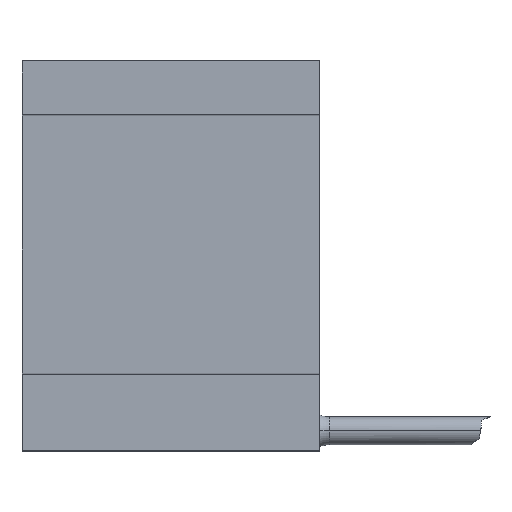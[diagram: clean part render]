
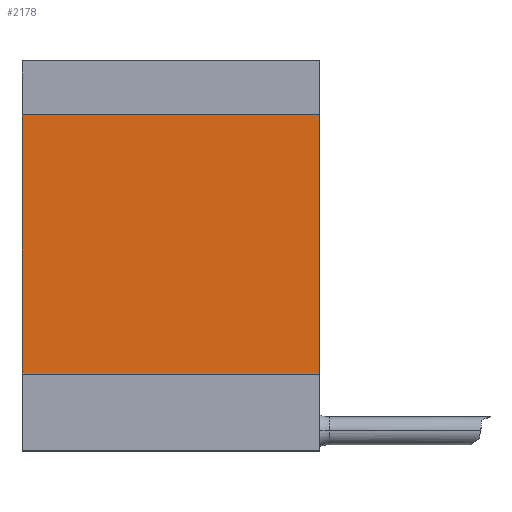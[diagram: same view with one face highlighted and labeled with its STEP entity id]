
A CAD part, top view. The second image highlights one B-rep face of the part: STEP entity #2178.
In plain terms, the highlighted planar face has unit normal (0, 0, 1).
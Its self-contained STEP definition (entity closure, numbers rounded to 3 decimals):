
#88 = DIRECTION ( 'NONE',  ( 1., 0., 0. ) ) ;
#269 = PLANE ( 'NONE',  #2606 ) ;
#324 = CARTESIAN_POINT ( 'NONE',  ( -23.097, 66.803, 43.079 ) ) ;
#472 = FACE_OUTER_BOUND ( 'NONE', #2415, .T. ) ;
#475 = CARTESIAN_POINT ( 'NONE',  ( -84.097, 119.703, 43.079 ) ) ;
#497 = DIRECTION ( 'NONE',  ( 0., -1., 0. ) ) ;
#504 = LINE ( 'NONE', #1429, #2587 ) ;
#581 = CARTESIAN_POINT ( 'NONE',  ( -84.097, 66.803, 43.079 ) ) ;
#772 = ORIENTED_EDGE ( 'NONE', *, *, #2201, .T. ) ;
#819 = EDGE_CURVE ( 'NONE', #2650, #1879, #504, .T. ) ;
#1026 = CARTESIAN_POINT ( 'NONE',  ( -84.097, 66.803, 43.079 ) ) ;
#1208 = DIRECTION ( 'NONE',  ( 0., 1., 0. ) ) ;
#1232 = VERTEX_POINT ( 'NONE', #3046 ) ;
#1274 = VECTOR ( 'NONE', #88, 1000. ) ;
#1351 = EDGE_CURVE ( 'NONE', #1232, #1954, #2350, .T. ) ;
#1412 = ORIENTED_EDGE ( 'NONE', *, *, #819, .T. ) ;
#1429 = CARTESIAN_POINT ( 'NONE',  ( -84.097, 66.803, 43.079 ) ) ;
#1517 = ORIENTED_EDGE ( 'NONE', *, *, #1351, .F. ) ;
#1827 = LINE ( 'NONE', #475, #2017 ) ;
#1879 = VERTEX_POINT ( 'NONE', #581 ) ;
#1954 = VERTEX_POINT ( 'NONE', #324 ) ;
#2017 = VECTOR ( 'NONE', #2331, 1000. ) ;
#2056 = VECTOR ( 'NONE', #497, 1000. ) ;
#2080 = DIRECTION ( 'NONE',  ( 0., -1., 0. ) ) ;
#2118 = CARTESIAN_POINT ( 'NONE',  ( -23.097, 66.803, 43.079 ) ) ;
#2159 = DIRECTION ( 'NONE',  ( 0., 0., -1. ) ) ;
#2178 = ADVANCED_FACE ( 'NONE', ( #472 ), #269, .F. ) ;
#2188 = LINE ( 'NONE', #1026, #1274 ) ;
#2201 = EDGE_CURVE ( 'NONE', #1879, #1954, #2188, .T. ) ;
#2331 = DIRECTION ( 'NONE',  ( 1., 0., 0. ) ) ;
#2350 = LINE ( 'NONE', #2118, #2056 ) ;
#2372 = CARTESIAN_POINT ( 'NONE',  ( -84.097, 66.803, 43.079 ) ) ;
#2415 = EDGE_LOOP ( 'NONE', ( #1517, #2636, #1412, #772 ) ) ;
#2481 = CARTESIAN_POINT ( 'NONE',  ( -84.097, 119.703, 43.079 ) ) ;
#2587 = VECTOR ( 'NONE', #2080, 1000. ) ;
#2606 = AXIS2_PLACEMENT_3D ( 'NONE', #2372, #2159, #1208 ) ;
#2636 = ORIENTED_EDGE ( 'NONE', *, *, #2712, .F. ) ;
#2650 = VERTEX_POINT ( 'NONE', #2481 ) ;
#2712 = EDGE_CURVE ( 'NONE', #2650, #1232, #1827, .T. ) ;
#3046 = CARTESIAN_POINT ( 'NONE',  ( -23.097, 119.703, 43.079 ) ) ;
